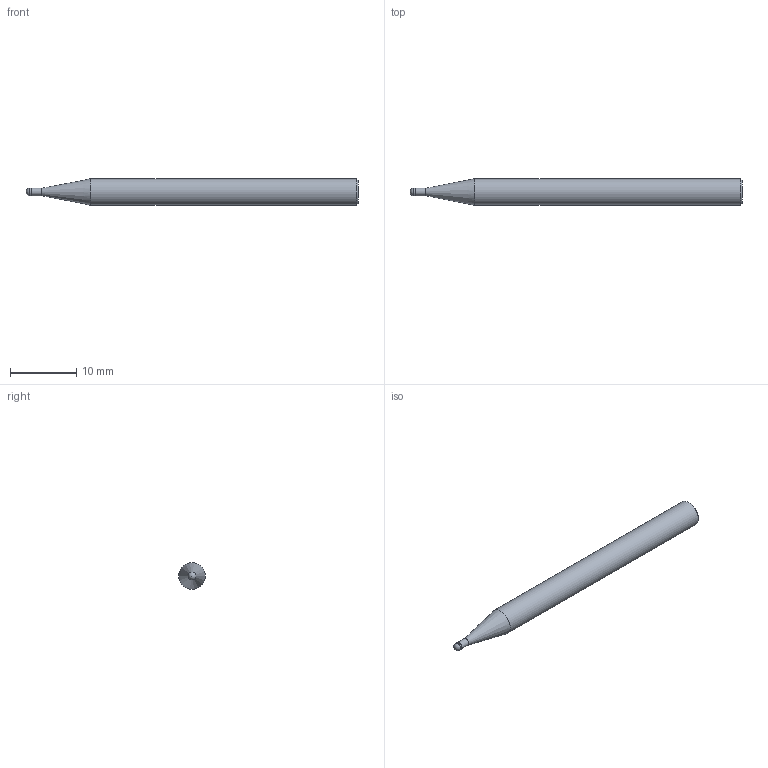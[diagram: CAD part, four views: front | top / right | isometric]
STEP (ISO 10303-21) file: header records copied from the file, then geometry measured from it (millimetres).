
FILE_DESCRIPTION(/* description */ (''),/* implementation_level */ '2;1');
FILE_NAME(/* name */ 'HSXB2012 0450.stp',/* time_stamp */ '2026-08-01T14:46:16+08:00',/* author */ (''),/* organization */ (''),/* preprocessor_version */ 'ST-DEVELOPER v16',/* originating_system */ 'SIEMENS PLM Software NX 10.0',/* authorisation */ '');
FILE_SCHEMA (('CONFIG_CONTROL_DESIGN'));
Length unit declared in the file: millimetre
Products named in the file (1): HSXB2012 0450_dxf
Bounding box: 50 x 4 x 4 mm (x, y, z)
Volume: 549.9 mm3; surface area: 588.2 mm2
Topology: 2 solids, 2 shells, 9 faces, 15 edges, 9 vertices
Faces by surface type: plane 3, cylinder 3, cone 2, sphere 1
Full cylindrical faces by diameter (mm): 1.14 x1, 1.2 x1, 4 x1
Entity records: 246 total; most frequent: DIRECTION 34, CARTESIAN_POINT 24, AXIS2_PLACEMENT_3D 17, EDGE_LOOP 14, ORIENTED_EDGE 14, FACE_BOUND 10, ADVANCED_FACE 9, PERSON_AND_ORGANIZATION 7
